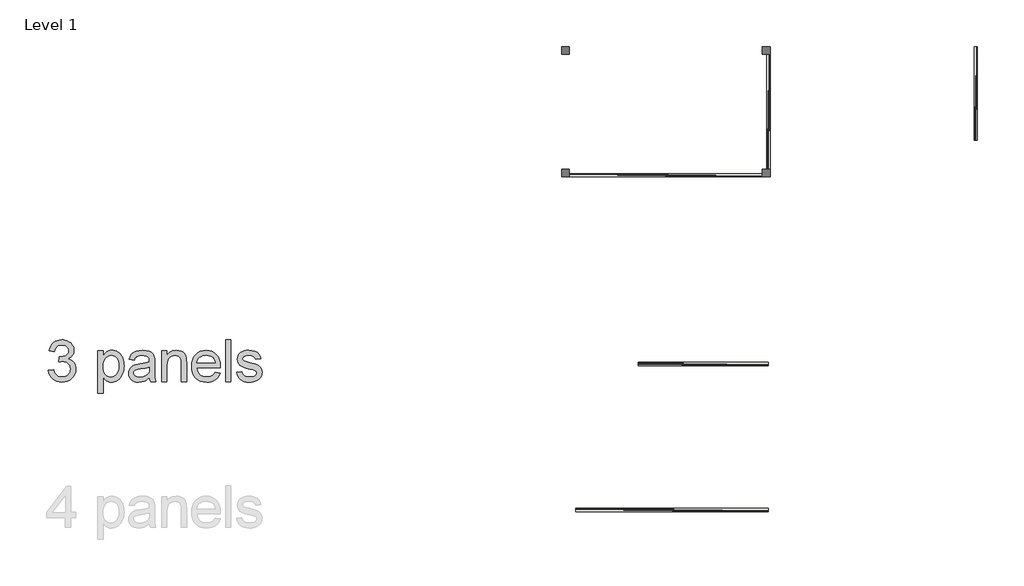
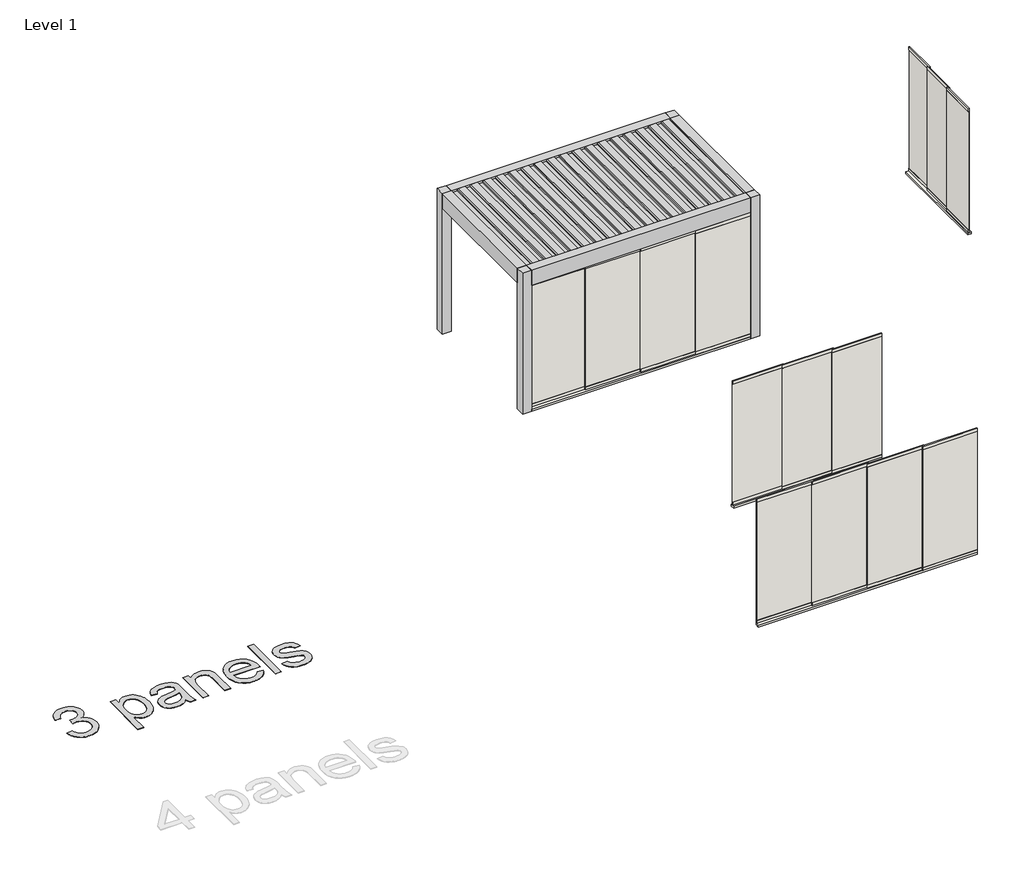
# One storey, part 23 of 69: 5 walls, 2 proxies.
"""IFC4 building model written with IfcOpenShell, lengths in millimetres."""

from ifc_helpers import new_model, si_unit, origin, origin_with_axes, place, context, project, spatial, polyline, outline, extrude, transform, mapped, element, save
from components import generic_models_9b0df196, wall_fd068a63, wall_14e47ea5, wall_c6d8e78c, wall_f2b27461

model = new_model("IFC4")

# Units and contexts
model_context = context("Model", 3, world=origin())
ifc_project = project(units=[si_unit("LENGTHUNIT", "METRE", prefix="MILLI")], contexts=[model_context])

# Site, building, storey
site = spatial("IfcSite", under=ifc_project)
building = spatial("IfcBuilding", under=site)
storey = spatial("IfcBuildingStorey", under=building, Name="Level 1", Elevation=0.0)

# Proxies
placement = place(None, origin())
generic_models_shape = generic_models_9b0df196(model_context)
element("IfcBuildingElementProxy", 1, Name="Renson_Camargue_Freestanding_Patio covers : Renson_Camargue_Freestanding_Patio covers", ObjectType="Renson_Camargue_Freestanding_Patio covers : Renson_Camargue_Freestanding_Patio covers", at=placement, inside=storey, context=model_context, shape_type="MappedRepresentation", body=[
    mapped(generic_models_shape, transform((208965.9810446, -50299.1002025, 0.0), x_axis=(1.0, 0.0, 0.0), y_axis=(0.0, 1.0, 0.0), z_axis=(0.0, 0.0, 1.0))),
])
element("IfcBuildingElementProxy", 2, Name="800mm Arial", ObjectType="800mm Arial", at=placement, inside=storey, context=model_context, shape_type="SweptSolid", body=[
    extrude(outline(polyline([(197121.9166073, -55263.8617669), (197221.8401946, -55251.3713185), (197231.7264333, -55285.3175274), (197244.2107829, -55314.1650962), (197259.2932433, -55337.914025), (197276.9738145, -55356.5643137), (197297.6550209, -55370.6526613), (197321.7393865, -55380.7157667), (197349.2269114, -55386.7536299), (197380.1175956, -55388.766251), (197416.3203796, -55385.9973723), (197448.6198986, -55377.6907362), (197477.0161524, -55363.8463427), (197501.5091411, -55344.4641918), (197521.2328277, -55320.9958102), (197535.3211752, -55294.8927247), (197543.7741838, -55266.1549351), (197546.5918533, -55234.7824417), (197543.7985792, -55204.9041669), (197535.4187569, -55177.7215846), (197521.4523863, -55153.2346947), (197501.8994676, -55131.4434974), (197478.0407595, -55113.5555652), (197451.1570209, -55100.7784707), (197421.2482519, -55093.1122141), (197388.3144523, -55090.5567952), (197356.7467956, -55093.2890808), (197318.2508433, -55101.4859375), (197329.3751489, -55001.5623502), (197345.3785359, -55002.7333298), (197376.1045511, -55000.9402674), (197405.2448648, -54995.5610801), (197432.7994771, -54986.595768), (197458.7683879, -54974.0443311), (197480.7974405, -54957.7725946), (197496.532478, -54937.6463838), (197505.9735006, -54913.6656986), (197509.1205081, -54885.8305392), (197506.8395375, -54863.2342934), (197499.9966258, -54842.6750641), (197488.591773, -54824.1528513), (197472.6249791, -54807.667655), (197453.0598627, -54794.1343029), (197430.8600422, -54784.4676229), (197406.0255179, -54778.6676148), (197378.5562895, -54776.7342788), (197351.1602474, -54778.6859114), (197326.1549552, -54784.5408091), (197303.5404128, -54794.2989719), (197283.3166204, -54807.9603999), (197265.9836837, -54825.5250929), (197252.0417085, -54846.9930511), (197241.490695, -54872.3642745), (197234.330643, -54901.6387629), (197134.4070557, -54889.1483145), (197146.2510259, -54841.443096), (197163.8279166, -54799.4220074), (197187.1377281, -54763.0850486), (197216.1804602, -54732.4322196), (197250.0412852, -54708.0978011), (197287.8053753, -54690.7160736), (197329.4727305, -54680.287037), (197375.0433509, -54676.8106915), (197407.0928169, -54678.5244689), (197437.8615241, -54683.6658009), (197467.3494723, -54692.2346876), (197495.5566618, -54704.2311291), (197521.5011772, -54719.1977113), (197544.2011034, -54736.6770205), (197563.6564405, -54756.6690565), (197579.8671885, -54779.1738195), (197592.6320853, -54803.2947783), (197601.7498687, -54828.1354015), (197607.2205387, -54853.6956892), (197609.0440954, -54879.9756415), (197607.3120215, -54904.6881888), (197602.1157998, -54928.2785475), (197593.4554303, -54950.7467173), (197581.330913, -54972.0926985), (197565.8154341, -54991.8163851), (197546.9821798, -55009.4176713), (197524.8311502, -55024.8965571), (197499.3623453, -55038.2530425), (197532.6620759, -55048.6698813), (197561.9121689, -55063.5266842), (197587.1126244, -55082.8234511), (197608.2634423, -55106.5601822), (197624.9986916, -55134.1513876), (197636.952441, -55165.0115775), (197644.1246907, -55199.140752), (197646.5154406, -55236.538911), (197641.7339408, -55287.2325668), (197627.3894415, -55333.9253759), (197603.4819426, -55376.6173383), (197570.0114441, -55415.3084539), (197529.2345212, -55447.4128096), (197483.407749, -55470.3444922), (197432.5311276, -55484.1035018), (197376.604657, -55488.6898383), (197326.0573735, -55484.7743755), (197279.998845, -55473.027987), (197238.4290714, -55453.4506728), (197201.3480527, -55426.042433), (197170.2561064, -55392.4133644), (197146.6535501, -55354.1735638), (197130.5403837, -55311.3230313), (197121.9166073, -55263.8617669)])), origin_with_axes(), (0.0, 0.0, 1.0), 5.0),
    extrude(outline(polyline([(198071.1906866, -55701.0274613), (198071.1906866, -54889.1483145), (198171.1142739, -54889.1483145), (198171.1142739, -54987.1202693), (198203.7065377, -54938.7929679), (198221.466394, -54919.8072424), (198240.2020667, -54904.2734669), (198260.4502545, -54892.1916416), (198282.7476566, -54883.5617663), (198307.0942728, -54878.3838412), (198333.4901032, -54876.6578661), (198368.3389422, -54879.0730114), (198401.0653808, -54886.3184473), (198431.6694189, -54898.3941738), (198460.1510567, -54915.3001909), (198485.8882111, -54936.5973813), (198508.2587994, -54961.8466276), (198527.2628215, -54991.0479298), (198542.9002774, -55024.201288), (198555.1101786, -55060.1723157), (198563.8315366, -55097.8266265), (198569.0643515, -55137.1642204), (198570.8086231, -55178.1850973), (198568.8386939, -55222.0419403), (198562.9289066, -55263.6422082), (198553.079261, -55302.9859009), (198539.2897571, -55340.0730185), (198521.7494595, -55373.9338435), (198500.6474324, -55403.5986585), (198475.9836758, -55429.0674635), (198447.7581899, -55450.3402584), (198417.3554138, -55467.1181996), (198386.1597871, -55479.1024433), (198354.1713096, -55486.2929896), (198321.3899813, -55488.6898383), (198297.8057216, -55487.0858403), (198275.4534299, -55482.2738462), (198254.3331062, -55474.2538562), (198234.4447506, -55463.0258701), (198199.3397598, -55433.9709403), (198171.1142739, -55398.1340873), (198171.1142739, -55701.0274613), (198071.1906866, -55701.0274613)]), holes=[polyline([(198171.1142739, -55187.3577704), (198173.8160652, -55235.5143039), (198181.9214392, -55276.9377051), (198195.4303959, -55311.6279739), (198214.3429352, -55339.5851104), (198237.1099488, -55361.1018594), (198262.1823284, -55376.4709658), (198289.560074, -55385.6924297), (198319.2431855, -55388.766251), (198349.3532167, -55385.5826504), (198377.2310681, -55376.0318485), (198402.8767398, -55360.1138454), (198426.2902317, -55337.8286411), (198445.8004585, -55308.8590952), (198459.7363347, -55272.8880675), (198468.0978605, -55229.915558), (198470.8850358, -55179.9415666), (198468.1649479, -55132.199755), (198460.0046842, -55090.8495401), (198446.4042448, -55055.8909218), (198427.3636296, -55027.3239001), (198404.5417263, -55005.1240797), (198379.5974226, -54989.2670651), (198352.5307184, -54979.7528563), (198323.3416139, -54976.5814534), (198294.2439921, -54979.9541184), (198266.8662466, -54990.0721135), (198241.2083772, -55006.9354386), (198217.270384, -55030.5440938), (198197.0770858, -55060.5809388), (198182.6533014, -55096.7288332), (198173.9990308, -55138.987777), (198171.1142739, -55187.3577704)])]), origin_with_axes(), (0.0, 0.0, 1.0), 5.0),
    extrude(outline(polyline([(199057.9361111, -55401.2566994), (199010.1942995, -55442.1921924), (198985.7927936, -55457.3539379), (198961.0375543, -55468.9783494), (198909.3436867, -55483.7619661), (198853.9905081, -55488.6898383), (198809.4993845, -55485.7257963), (198770.4850298, -55476.8336705), (198736.9474439, -55462.0134607), (198708.886627, -55441.265167), (198686.7294985, -55415.9061413), (198670.9029782, -55387.2537358), (198661.407066, -55355.3079502), (198658.2417619, -55320.0687847), (198663.0232617, -55278.6453836), (198677.3677611, -55241.0276659), (198699.4943953, -55208.8257286), (198727.6222996, -55183.6496685), (198760.6780762, -55164.621251), (198797.588327, -55150.8622414), (198884.0456496, -55135.8346707), (198986.2136144, -55120.0264469), (199057.3506213, -55101.4859375), (199057.9361111, -55079.2373263), (199056.2162349, -55055.0126871), (199051.0566063, -55034.6425222), (199042.4572253, -55018.1268316), (199030.418092, -55005.4656154), (199009.6088097, -54992.8287945), (198984.2619818, -54983.8024939), (198954.3776082, -54978.3867135), (198919.9556888, -54976.5814534), (198860.4308956, -54981.3873486), (198837.4016313, -54987.3947176), (198818.861122, -54995.8050342), (198803.6261903, -55007.2769743), (198790.513659, -55022.4692141), (198779.5235281, -55041.3817534), (198770.6557976, -55064.0145923), (198670.7322104, -55051.5241439), (198688.0773448, -54996.8784321), (198699.9518092, -54973.9467495), (198713.9608717, -54953.9425157), (198730.7083186, -54936.4632065), (198750.7979363, -54921.1062978), (198774.2297248, -54907.8717895), (198801.003684, -54896.7596815), (198862.4069236, -54881.68332), (198932.8364637, -54876.6578661), (199000.3873459, -54881.0978302), (199053.9352644, -54894.4177225), (199094.309663, -54914.4463517), (199122.3399857, -54939.0125266), (199140.9292859, -54969.3848083), (199152.980617, -55006.8317582), (199156.6399281, -55041.3756546), (199157.8596984, -55094.264897), (199157.8596984, -55218.5838914), (199159.1282596, -55326.8751033), (199162.9339431, -55392.181608), (199170.4477284, -55435.093129), (199182.8405952, -55476.1993899), (199082.9170079, -55476.1993899), (199066.9136209, -55441.4603302), (199057.9361111, -55401.2566994)]), holes=[polyline([(199057.9361111, -55201.4095248), (198990.7999509, -55218.0471924), (198896.7312613, -55232.0501561), (198844.8910213, -55239.7103139), (198810.7618468, -55248.2487064), (198788.3912586, -55259.3242212), (198771.8267772, -55274.595746), (198761.5807062, -55292.8923013), (198758.1653492, -55313.0429075), (198760.025499, -55328.5705841), (198765.6059484, -55342.7565133), (198774.9066973, -55355.6006951), (198787.9277458, -55367.1031295), (198804.5471169, -55376.5807452), (198824.6428335, -55383.3504706), (198875.2633031, -55388.766251), (198928.9331986, -55382.7893763), (198953.4261873, -55375.3182829), (198976.3578699, -55364.8587521), (199014.8050314, -55338.4385262), (199041.5423976, -55306.9928466), (199053.3985654, -55274.595746), (199057.3506213, -55229.708197), (199057.9361111, -55201.4095248)])]), origin_with_axes(), (0.0, 0.0, 1.0), 5.0),
    extrude(outline(polyline([(199295.2546309, -55476.1993899), (199295.2546309, -54889.1483145), (199395.1782182, -54889.1483145), (199395.1782182, -54971.1168822), (199411.6634145, -54948.9780503), (199429.8928825, -54929.7910627), (199449.866622, -54913.5559193), (199471.5846331, -54900.2726202), (199495.0469159, -54889.9411653), (199520.2534702, -54882.5615546), (199575.8993937, -54876.6578661), (199625.1537205, -54881.4149705), (199670.2608282, -54895.6862836), (199707.8785458, -54917.6909408), (199734.6647028, -54945.6480773), (199752.839281, -54979.4845069), (199764.6222626, -55019.1270433), (199768.5743186, -55057.0375059), (199769.8916706, -55115.7328553), (199769.8916706, -55476.1993899), (199669.9680833, -55476.1993899), (199669.9680833, -55129.1991199), (199667.0894252, -55077.5296478), (199658.4534512, -55040.7901648), (199642.5232503, -55014.4675206), (199617.7619122, -54994.0485649), (199586.0234876, -54980.9482313), (199549.1620275, -54976.5814534), (199518.82024, -54979.0331918), (199490.637446, -54986.3884071), (199464.6136456, -54998.6470991), (199440.7488386, -55015.809268), (199420.8116922, -55039.8265462), (199406.5708733, -55072.6505664), (199398.026382, -55114.2813285), (199395.1782182, -55164.7188326), (199395.1782182, -55476.1993899), (199295.2546309, -55476.1993899)])), origin_with_axes(), (0.0, 0.0, 1.0), 5.0),
    extrude(outline(polyline([(200318.3004211, -55301.3331121), (200416.2723759, -55313.8235605), (200401.250904, -55353.0635728), (200380.9722219, -55387.6440623), (200355.4363295, -55417.565029), (200324.643227, -55442.826473), (200288.9100545, -55462.8916953), (200248.5539524, -55477.223997), (200203.5749206, -55485.823378), (200153.9729592, -55488.6898383), (200091.9720322, -55483.7436695), (200036.7286329, -55468.9051632), (199988.2427614, -55444.1743193), (199946.5144176, -55409.5511378), (199912.9585352, -55365.9992374), (199888.9900478, -55314.4822365), (199874.6089554, -55255.0001353), (199869.8152579, -55187.5529336), (199874.6577462, -55117.8186626), (199889.1852111, -55056.3544345), (199913.3976526, -55003.1602494), (199929.1357395, -54979.664423), (199947.2950707, -54958.2361073), (199988.9136351, -54922.5456268), (200036.2895156, -54897.0524264), (200089.4227122, -54881.7565062), (200148.3132248, -54876.6578661), (200205.3069945, -54881.7443085), (200256.8483908, -54897.0036356), (200302.9374136, -54922.4358475), (200343.5740629, -54958.0409441), (200376.7457176, -55002.8675045), (200400.4397567, -55055.964108), (200414.6561802, -55117.3307544), (200419.394988, -55186.9674439), (200418.8094982, -55213.8999732), (199969.7388452, -55213.8999732), (199975.5266555, -55253.7742661), (199987.0351888, -55288.6962913), (200004.264445, -55318.6660488), (200027.2144242, -55343.6835388), (200054.6165652, -55363.4072254), (200085.2023067, -55377.4955729), (200118.971649, -55385.9485815), (200155.9245918, -55388.766251), (200209.1065792, -55383.5456339), (200253.8965465, -55367.8837826), (200273.1445227, -55355.89344), (200290.2944938, -55340.8048807), (200305.34646, -55322.6181048), (200318.3004211, -55301.3331121)]), holes=[polyline([(199969.7388452, -55113.9763859), (200319.4714007, -55113.9763859), (200314.3361675, -55085.7021092), (200305.9563452, -55061.1847251), (200294.3319337, -55040.4242337), (200279.4629331, -55023.420635), (200252.2132634, -55002.928493), (200221.2067011, -54988.2912488), (200186.443246, -54979.5089023), (200147.9228983, -54976.5814534), (200112.7874133, -54978.9173136), (200080.5671794, -54985.9248943), (200051.2621967, -54997.6041954), (200024.8724651, -55013.955217), (200002.7275343, -55034.2217014), (199986.1569541, -55057.6473911), (199975.1607244, -55084.2322859), (199969.7388452, -55113.9763859)])]), origin_with_axes(), (0.0, 0.0, 1.0), 5.0),
    extrude(outline(polyline([(200519.3185753, -55476.1993899), (200519.3185753, -54676.8106915), (200619.2421626, -54676.8106915), (200619.2421626, -55476.1993899), (200519.3185753, -55476.1993899)])), origin_with_axes(), (0.0, 0.0, 1.0), 5.0),
    extrude(outline(polyline([(200731.6561983, -55301.3331121), (200831.5797856, -55288.8426637), (200837.6176488, -55311.6279739), (200847.3392185, -55331.5834169), (200860.7444947, -55348.7089926), (200877.8334773, -55363.0047012), (200898.6549573, -55374.2753792), (200923.2577253, -55382.3258635), (200951.6417814, -55387.1561541), (200983.8071256, -55388.766251), (201015.9358767, -55387.2903289), (201043.6246637, -55382.8625625), (201066.8734866, -55375.4829519), (201085.6823454, -55365.151497), (201100.1976126, -55352.8318164), (201110.5656606, -55339.4875288), (201116.7864894, -55325.118634), (201118.860099, -55309.7251321), (201116.7742917, -55296.234472), (201110.5168698, -55284.2563272), (201100.0878333, -55273.7906976), (201085.4871822, -55264.8375832), (201048.0646278, -55252.1519715), (200982.636146, -55236.3437477), (200891.4461145, -55209.9723127), (200832.1652753, -55187.455352), (200794.0840449, -55162.8891771), (200778.9771891, -55147.6237511), (200766.4928395, -55130.3700995), (200749.7331949, -55091.9717288), (200744.1466467, -55049.7676746), (200748.6354016, -55011.0521636), (200762.1016663, -54975.3128923), (200783.3256704, -54943.9647942), (200811.0876436, -54918.422803), (200838.678849, -54902.3462298), (200874.6132836, -54888.8555697), (200916.1586618, -54879.707292), (200960.5826981, -54876.6578661), (201025.6208533, -54881.5613429), (201082.1694068, -54896.2717734), (201127.6424456, -54919.3498285), (201145.2559295, -54933.4869669), (201159.4540564, -54949.3561791), (201180.5316881, -54988.5108075), (201193.8027895, -55039.0336955), (201093.8792022, -55051.5241439), (201089.115999, -55034.8315866), (201081.2667768, -55020.0784642), (201070.3315355, -55007.2647766), (201056.3102753, -54996.3905239), (201039.1420076, -54987.7240556), (201018.7657439, -54981.5337211), (200968.3892283, -54976.5814534), (200911.0112309, -54981.3141624), (200889.4944819, -54987.2300486), (200872.7592327, -54995.5122893), (200851.2424836, -55016.0044312), (200845.8632964, -55027.4214817), (200844.070234, -55039.6191852), (200847.0464736, -55054.9882917), (200855.9751926, -55068.6985105), (200871.2467174, -55080.9450048), (200893.2513746, -55090.7519584), (200979.3183707, -55112.0247534), (201067.6053488, -55138.1278389), (201125.9835579, -55159.0590982), (201164.7234643, -55181.5516635), (201194.0955344, -55212.3386672), (201204.8966009, -55230.8669788), (201212.6116483, -55251.5176909), (201217.2406768, -55274.2908034), (201218.7836863, -55299.1863163), (201216.9723273, -55324.1916085), (201211.5382504, -55348.4650385), (201202.4814556, -55372.0066064), (201189.8019427, -55394.816312), (201173.7070729, -55415.9854264), (201154.4042071, -55434.6052209), (201131.8933452, -55450.6756953), (201106.1744874, -55464.1968496), (201077.9490014, -55474.9125322), (201047.9182553, -55482.5665911), (201016.0822491, -55487.1590265), (200982.4409828, -55488.6898383), (200928.6613079, -55485.737994), (200881.6879516, -55476.8824613), (200841.5209139, -55462.12324), (200808.1601948, -55441.4603302), (200780.9105251, -55414.9913136), (200759.0766358, -55382.8137717), (200742.6585268, -55344.9277045), (200731.6561983, -55301.3331121)])), origin_with_axes(), (0.0, 0.0, 1.0), 5.0),
])

# Walls
wall_shape = wall_fd068a63(model_context)
element("IfcWall", 3, ObjectType="Renson_Camargue_Glass_Sliding_Panel : Renson_Camargue_Glass_Sliding_Panel", at=placement, inside=storey, context=model_context, shape_type="MappedRepresentation", body=[
    mapped(wall_shape, transform((210065.9810446, -51549.1002025, 0.0), x_axis=(1.0, 0.0, 0.0), y_axis=(0.0, 1.0, 0.0), z_axis=(0.0, 0.0, 1.0))),
])
element("IfcWall", 4, ObjectType="Renson_Camargue_Glass_Sliding_Panel : Renson_Camargue_Glass_Sliding_Panel", at=placement, inside=storey, context=model_context, shape_type="MappedRepresentation", body=[
    mapped(wall_shape, transform((210185.9810446, -57974.1002025, 0.0), x_axis=(1.0, 0.0, 0.0), y_axis=(0.0, 1.0, 0.0), z_axis=(0.0, 0.0, 1.0))),
])
wall_2_shape = wall_14e47ea5(model_context)
element("IfcWall", 5, ObjectType="Renson_Camargue_Glass_Sliding_Panel : Renson_Camargue_Glass_Sliding_Panel", at=placement, inside=storey, context=model_context, shape_type="MappedRepresentation", body=[
    mapped(wall_2_shape, transform((210185.9810446, -55174.1002025, 0.0), x_axis=(1.0, 0.0, 0.0), y_axis=(0.0, 1.0, 0.0), z_axis=(0.0, 0.0, 1.0))),
])
wall_3_shape = wall_c6d8e78c(model_context)
element("IfcWall", 6, ObjectType="Renson_Camargue_Glass_Sliding_Panel : Renson_Camargue_Glass_Sliding_Panel", at=placement, inside=storey, context=model_context, shape_type="MappedRepresentation", body=[
    mapped(wall_3_shape, transform((214946.3183956, -49799.1002025, 0.0), x_axis=(0.0, 1.0000000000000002, 0.0), y_axis=(-1.0000000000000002, 0.0, 0.0), z_axis=(0.0, 0.0, 1.0))),
])
wall_4_shape = wall_f2b27461(model_context)
element("IfcWall", 7, ObjectType="Renson_Camargue_Glass_Sliding_Panel : Renson_Camargue_Glass_Sliding_Panel", at=placement, inside=storey, context=model_context, shape_type="MappedRepresentation", body=[
    mapped(wall_4_shape, transform((210965.9810446, -49949.1002025, 0.0), x_axis=(0.0, 1.0000000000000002, 0.0), y_axis=(-1.0000000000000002, 0.0, 0.0), z_axis=(0.0, 0.0, 1.0))),
])

save(model, "model.ifc")
